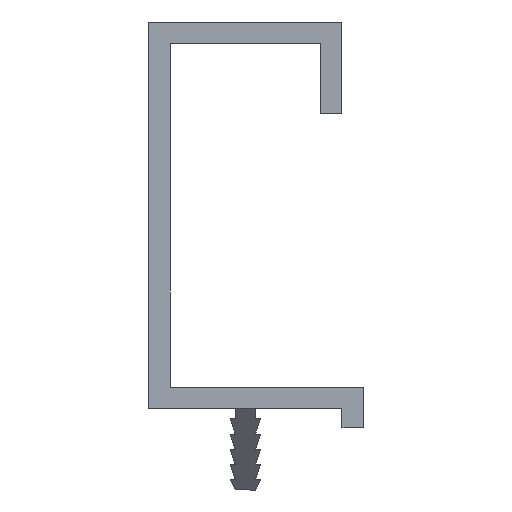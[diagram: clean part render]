
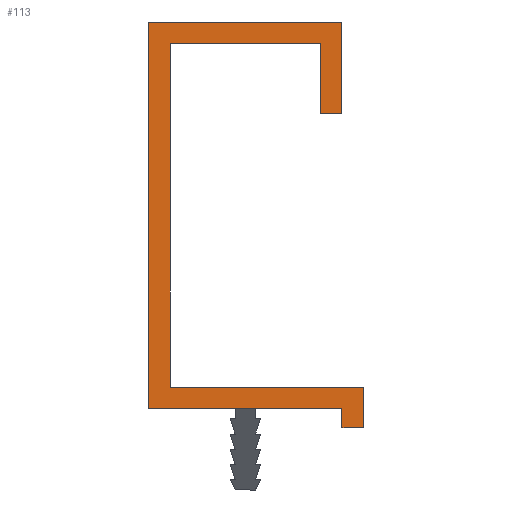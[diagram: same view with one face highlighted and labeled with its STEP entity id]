
A CAD part, left-side view. The second image highlights one B-rep face of the part: STEP entity #113.
In plain terms, the highlighted planar face has unit normal (-1, 0, 0).
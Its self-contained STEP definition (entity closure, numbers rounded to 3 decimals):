
#113 = ADVANCED_FACE( '', ( #192 ), #193, .F. );
#192 = FACE_OUTER_BOUND( '', #271, .T. );
#193 = PLANE( '', #272 );
#271 = EDGE_LOOP( '', ( #591, #592, #593, #594, #595, #596, #597, #598, #599, #600, #601, #602 ) );
#272 = AXIS2_PLACEMENT_3D( '', #603, #604, #605 );
#591 = ORIENTED_EDGE( '', *, *, #668, .F. );
#592 = ORIENTED_EDGE( '', *, *, #696, .F. );
#593 = ORIENTED_EDGE( '', *, *, #698, .F. );
#594 = ORIENTED_EDGE( '', *, *, #700, .F. );
#595 = ORIENTED_EDGE( '', *, *, #702, .F. );
#596 = ORIENTED_EDGE( '', *, *, #704, .F. );
#597 = ORIENTED_EDGE( '', *, *, #706, .F. );
#598 = ORIENTED_EDGE( '', *, *, #708, .F. );
#599 = ORIENTED_EDGE( '', *, *, #710, .F. );
#600 = ORIENTED_EDGE( '', *, *, #712, .F. );
#601 = ORIENTED_EDGE( '', *, *, #713, .F. );
#602 = ORIENTED_EDGE( '', *, *, #683, .F. );
#603 = CARTESIAN_POINT( '', ( 0., 0., 0. ) );
#604 = DIRECTION( '', ( 1., 0., 0. ) );
#605 = DIRECTION( '', ( 0., 0., -1. ) );
#668 = EDGE_CURVE( '', #824, #825, #826, .T. );
#683 = EDGE_CURVE( '', #825, #853, #854, .T. );
#696 = EDGE_CURVE( '', #866, #824, #868, .T. );
#698 = EDGE_CURVE( '', #869, #866, #871, .T. );
#700 = EDGE_CURVE( '', #872, #869, #874, .T. );
#702 = EDGE_CURVE( '', #875, #872, #877, .T. );
#704 = EDGE_CURVE( '', #878, #875, #880, .T. );
#706 = EDGE_CURVE( '', #881, #878, #883, .T. );
#708 = EDGE_CURVE( '', #884, #881, #886, .T. );
#710 = EDGE_CURVE( '', #887, #884, #889, .T. );
#712 = EDGE_CURVE( '', #890, #887, #892, .T. );
#713 = EDGE_CURVE( '', #853, #890, #893, .T. );
#824 = VERTEX_POINT( '', #1066 );
#825 = VERTEX_POINT( '', #1067 );
#826 = LINE( '', #1068, #1069 );
#853 = VERTEX_POINT( '', #1110 );
#854 = LINE( '', #1111, #1112 );
#866 = VERTEX_POINT( '', #1135 );
#868 = LINE( '', #1138, #1139 );
#869 = VERTEX_POINT( '', #1140 );
#871 = LINE( '', #1143, #1144 );
#872 = VERTEX_POINT( '', #1145 );
#874 = LINE( '', #1148, #1149 );
#875 = VERTEX_POINT( '', #1150 );
#877 = LINE( '', #1153, #1154 );
#878 = VERTEX_POINT( '', #1155 );
#880 = LINE( '', #1158, #1159 );
#881 = VERTEX_POINT( '', #1160 );
#883 = LINE( '', #1163, #1164 );
#884 = VERTEX_POINT( '', #1165 );
#886 = LINE( '', #1168, #1169 );
#887 = VERTEX_POINT( '', #1170 );
#889 = LINE( '', #1173, #1174 );
#890 = VERTEX_POINT( '', #1175 );
#892 = LINE( '', #1178, #1179 );
#893 = LINE( '', #1180, #1181 );
#1066 = CARTESIAN_POINT( '', ( 0., -9.5, 0. ) );
#1067 = CARTESIAN_POINT( '', ( 0., 9.5, 0. ) );
#1068 = CARTESIAN_POINT( '', ( 0., -9.5, 0. ) );
#1069 = VECTOR( '', #1244, 1. );
#1110 = CARTESIAN_POINT( '', ( 0., 9.5, 38. ) );
#1111 = CARTESIAN_POINT( '', ( 0., 9.5, 0. ) );
#1112 = VECTOR( '', #1259, 1. );
#1135 = CARTESIAN_POINT( '', ( 0., -9.5, -1.9 ) );
#1138 = CARTESIAN_POINT( '', ( 0., -9.5, -1.9 ) );
#1139 = VECTOR( '', #1272, 1. );
#1140 = CARTESIAN_POINT( '', ( 0., -11.6, -1.9 ) );
#1143 = CARTESIAN_POINT( '', ( 0., -11.6, -1.9 ) );
#1144 = VECTOR( '', #1274, 1. );
#1145 = CARTESIAN_POINT( '', ( 0., -11.6, 2.1 ) );
#1148 = CARTESIAN_POINT( '', ( 0., -11.6, 2.1 ) );
#1149 = VECTOR( '', #1276, 1. );
#1150 = CARTESIAN_POINT( '', ( 0., 7.4, 2.1 ) );
#1153 = CARTESIAN_POINT( '', ( 0., 7.4, 2.1 ) );
#1154 = VECTOR( '', #1278, 1. );
#1155 = CARTESIAN_POINT( '', ( 0., 7.4, 35.9 ) );
#1158 = CARTESIAN_POINT( '', ( 0., 7.4, 35.9 ) );
#1159 = VECTOR( '', #1280, 1. );
#1160 = CARTESIAN_POINT( '', ( 0., -7.4, 35.9 ) );
#1163 = CARTESIAN_POINT( '', ( 0., -7.4, 35.9 ) );
#1164 = VECTOR( '', #1282, 1. );
#1165 = CARTESIAN_POINT( '', ( 0., -7.4, 29. ) );
#1168 = CARTESIAN_POINT( '', ( 0., -7.4, 29. ) );
#1169 = VECTOR( '', #1284, 1. );
#1170 = CARTESIAN_POINT( '', ( 0., -9.5, 29. ) );
#1173 = CARTESIAN_POINT( '', ( 0., -9.5, 29. ) );
#1174 = VECTOR( '', #1286, 1. );
#1175 = CARTESIAN_POINT( '', ( 0., -9.5, 38. ) );
#1178 = CARTESIAN_POINT( '', ( 0., -9.5, 38. ) );
#1179 = VECTOR( '', #1288, 1. );
#1180 = CARTESIAN_POINT( '', ( 0., 9.5, 38. ) );
#1181 = VECTOR( '', #1289, 1. );
#1244 = DIRECTION( '', ( 0., 1., 0. ) );
#1259 = DIRECTION( '', ( 0., 0., 1. ) );
#1272 = DIRECTION( '', ( 0., 0., 1. ) );
#1274 = DIRECTION( '', ( 0., 1., 0. ) );
#1276 = DIRECTION( '', ( 0., 0., -1. ) );
#1278 = DIRECTION( '', ( 0., -1., 0. ) );
#1280 = DIRECTION( '', ( 0., 0., -1. ) );
#1282 = DIRECTION( '', ( 0., 1., 0. ) );
#1284 = DIRECTION( '', ( 0., 0., 1. ) );
#1286 = DIRECTION( '', ( 0., 1., 0. ) );
#1288 = DIRECTION( '', ( 0., 0., -1. ) );
#1289 = DIRECTION( '', ( 0., -1., 0. ) );
